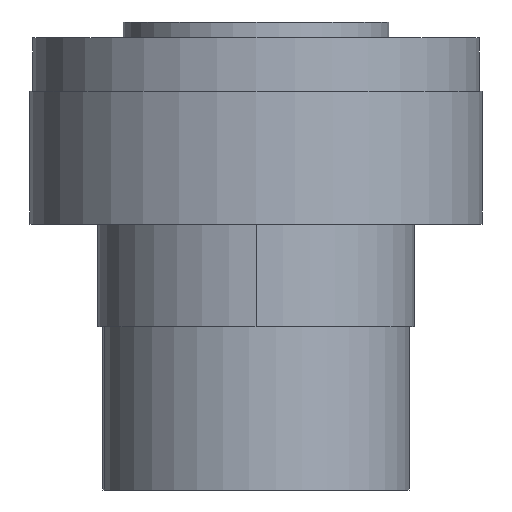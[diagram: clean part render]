
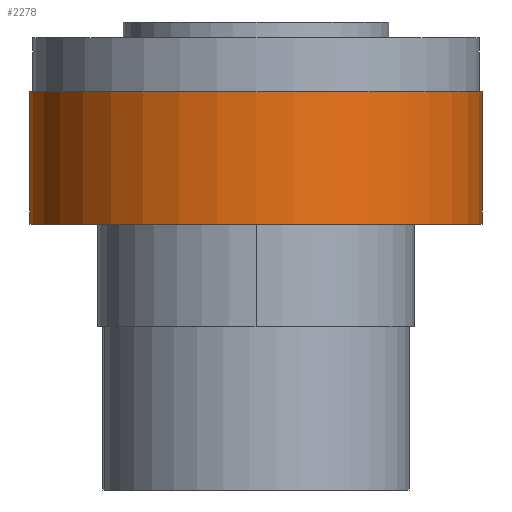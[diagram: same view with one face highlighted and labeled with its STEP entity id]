
A CAD part, front view. The second image highlights one B-rep face of the part: STEP entity #2278.
In plain terms, the highlighted cylindrical face has radius 42.5 mm (diameter 85 mm), a partial arc.
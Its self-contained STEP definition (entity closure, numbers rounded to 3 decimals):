
#118 = LINE ( 'NONE', #2009, #242 ) ;
#141 = EDGE_CURVE ( 'NONE', #543, #2577, #443, .T. ) ;
#156 = CARTESIAN_POINT ( 'NONE',  ( 42.5, 0., 0. ) ) ;
#201 = CARTESIAN_POINT ( 'NONE',  ( 42.5, 0., -25. ) ) ;
#242 = VECTOR ( 'NONE', #377, 1000. ) ;
#375 = ORIENTED_EDGE ( 'NONE', *, *, #2054, .F. ) ;
#377 = DIRECTION ( 'NONE',  ( 0., 0., -1. ) ) ;
#443 = CIRCLE ( 'NONE', #1649, 42.5 ) ;
#502 = EDGE_CURVE ( 'NONE', #543, #1469, #118, .T. ) ;
#543 = VERTEX_POINT ( 'NONE', #156 ) ;
#562 = CARTESIAN_POINT ( 'NONE',  ( -42.5, 0., -25. ) ) ;
#753 = LINE ( 'NONE', #2639, #1837 ) ;
#769 = DIRECTION ( 'NONE',  ( 0., 0., -1. ) ) ;
#834 = CARTESIAN_POINT ( 'NONE',  ( 0., 0., -39. ) ) ;
#870 = FACE_OUTER_BOUND ( 'NONE', #1659, .T. ) ;
#1023 = DIRECTION ( 'NONE',  ( 0., 0., -1. ) ) ;
#1098 = EDGE_CURVE ( 'NONE', #2577, #2091, #753, .T. ) ;
#1169 = DIRECTION ( 'NONE',  ( 0., 0., -1. ) ) ;
#1237 = DIRECTION ( 'NONE',  ( 0., 0., -1. ) ) ;
#1330 = CIRCLE ( 'NONE', #2214, 42.5 ) ;
#1469 = VERTEX_POINT ( 'NONE', #201 ) ;
#1577 = DIRECTION ( 'NONE',  ( 1., 0., 0. ) ) ;
#1624 = ORIENTED_EDGE ( 'NONE', *, *, #141, .T. ) ;
#1648 = DIRECTION ( 'NONE',  ( 1., 0., 0. ) ) ;
#1649 = AXIS2_PLACEMENT_3D ( 'NONE', #2210, #769, #1577 ) ;
#1659 = EDGE_LOOP ( 'NONE', ( #1624, #2635, #375, #2212 ) ) ;
#1837 = VECTOR ( 'NONE', #1023, 1000. ) ;
#1889 = CYLINDRICAL_SURFACE ( 'NONE', #2292, 42.5 ) ;
#2009 = CARTESIAN_POINT ( 'NONE',  ( 42.5, 0., -39. ) ) ;
#2054 = EDGE_CURVE ( 'NONE', #1469, #2091, #1330, .T. ) ;
#2091 = VERTEX_POINT ( 'NONE', #562 ) ;
#2210 = CARTESIAN_POINT ( 'NONE',  ( 0., 0., 0. ) ) ;
#2212 = ORIENTED_EDGE ( 'NONE', *, *, #502, .F. ) ;
#2214 = AXIS2_PLACEMENT_3D ( 'NONE', #2375, #1169, #2584 ) ;
#2272 = CARTESIAN_POINT ( 'NONE',  ( -42.5, 0., 0. ) ) ;
#2278 = ADVANCED_FACE ( 'NONE', ( #870 ), #1889, .T. ) ;
#2292 = AXIS2_PLACEMENT_3D ( 'NONE', #834, #1237, #1648 ) ;
#2375 = CARTESIAN_POINT ( 'NONE',  ( 0., 0., -25. ) ) ;
#2577 = VERTEX_POINT ( 'NONE', #2272 ) ;
#2584 = DIRECTION ( 'NONE',  ( 1., 0., 0. ) ) ;
#2635 = ORIENTED_EDGE ( 'NONE', *, *, #1098, .T. ) ;
#2639 = CARTESIAN_POINT ( 'NONE',  ( -42.5, 0., -39. ) ) ;
